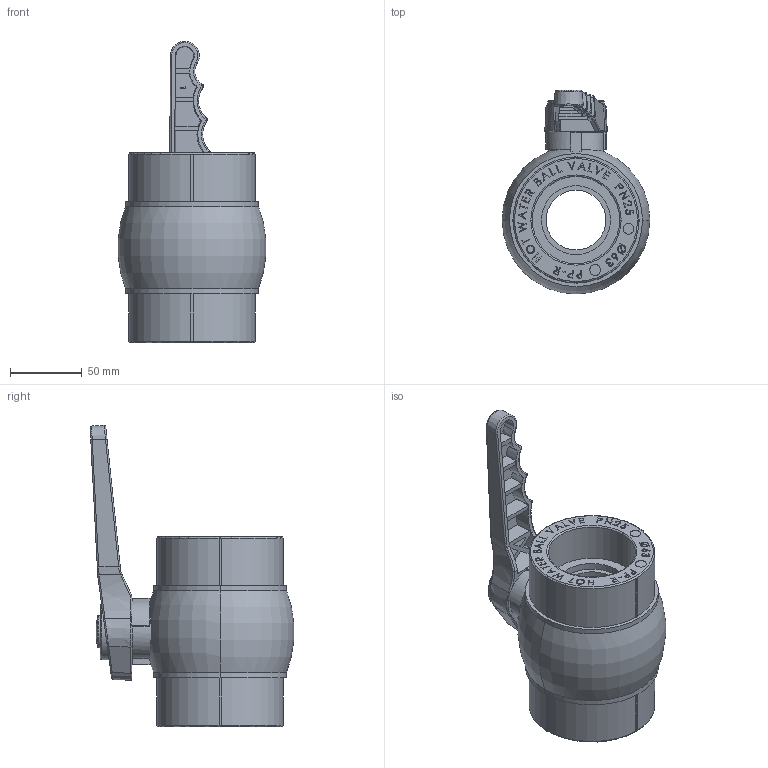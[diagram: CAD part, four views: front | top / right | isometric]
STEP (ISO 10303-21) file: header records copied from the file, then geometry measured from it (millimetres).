
FILE_DESCRIPTION (( 'STEP AP203' ), '1' );
FILE_NAME ('PKG06_ASM.STEP', '2022-08-22T13:05:48', ( '' ), ( '' ), 'SwSTEP 2.0', 'SolidWorks 2021', '' );
FILE_SCHEMA (( 'CONFIG_CONTROL_DESIGN' ));
Length unit declared in the file: millimetre
Products named in the file (16): PKG06_INCERT_BIG_ASM; PKG06_STEM_ASM; PKG06_INCERT_ASM; PKG06_STEM; VALVE_CAP; PKG06_HANDLE; PKG06_BALL; PKG06_HANDLE_INSERT; PKG06_INCERT_SMALL; PKG06_BODY; PKG06_INCERT_SMALL_ASM; PKG06_PTFE_RING; PKG06_HANDLE ASM; PKG06_ORING; PKG06_ASM; PKG06_INCERT_BIG
Assembly tree (19 placements, depth 4):
  PKG06_ASM
    PKG06_BODY
    PKG06_INCERT_ASM
      PKG06_INCERT_BIG_ASM
        PKG06_INCERT_BIG
        PKG06_PTFE_RING
      PKG06_BALL
      PKG06_INCERT_SMALL_ASM
        PKG06_INCERT_SMALL
        PKG06_PTFE_RING
    PKG06_STEM_ASM
      PKG06_STEM
      PKG06_ORING  x4
    PKG06_HANDLE ASM
      PKG06_HANDLE
      PKG06_HANDLE_INSERT
    VALVE_CAP
Bounding box: 102.57 x 141.53 x 209.41 mm (x, y, z)
Volume: 668824 mm3; surface area: 187388.8 mm2
Topology: 19 solids, 19 shells, 1167 faces, 2987 edges, 1949 vertices
Faces by surface type: plane 589, bspline 215, cylinder 200, torus 82, cone 56, sphere 25
Entity records: 52581 total; most frequent: CARTESIAN_POINT 24529, ORIENTED_EDGE 5842, DIRECTION 4774, EDGE_CURVE 2921, VERTEX_POINT 1911, LINE 1604, VECTOR 1604, AXIS2_PLACEMENT_3D 1585
